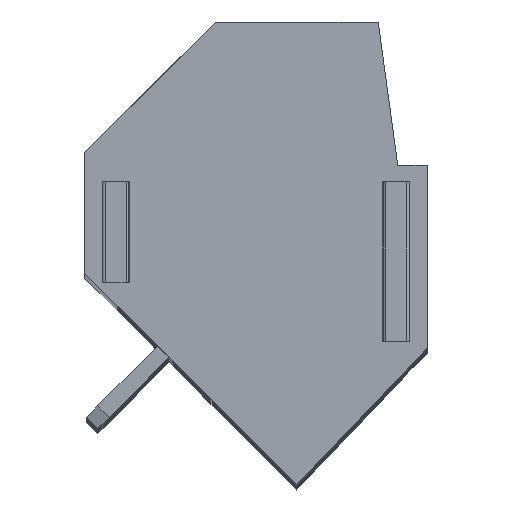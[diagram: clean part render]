
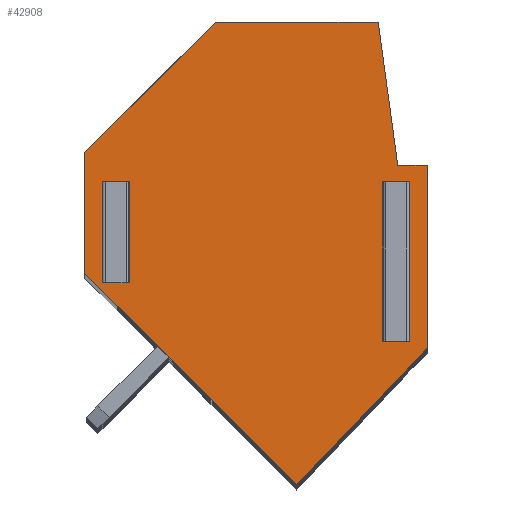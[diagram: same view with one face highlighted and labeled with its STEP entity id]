
A CAD part, top view. The second image highlights one B-rep face of the part: STEP entity #42908.
In plain terms, the highlighted planar face has unit normal (0, 0, 1).
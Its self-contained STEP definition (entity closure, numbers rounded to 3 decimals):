
#13434 = VERTEX_POINT ( 'NONE', #20497 ) ;
#13480 = VERTEX_POINT ( 'NONE', #20677 ) ;
#13495 = EDGE_CURVE ( 'NONE', #13497, #13480, #20647, .T. ) ;
#13497 = VERTEX_POINT ( 'NONE', #20641 ) ;
#13560 = VERTEX_POINT ( 'NONE', #20816 ) ;
#13570 = EDGE_CURVE ( 'NONE', #13480, #13560, #20802, .T. ) ;
#13587 = EDGE_CURVE ( 'NONE', #13589, #13434, #20909, .T. ) ;
#13589 = VERTEX_POINT ( 'NONE', #20901 ) ;
#13615 = VERTEX_POINT ( 'NONE', #20831 ) ;
#13625 = EDGE_CURVE ( 'NONE', #13560, #13615, #20972, .T. ) ;
#13674 = EDGE_CURVE ( 'NONE', #13615, #13497, #21008, .T. ) ;
#13716 = VERTEX_POINT ( 'NONE', #21083 ) ;
#13745 = EDGE_CURVE ( 'NONE', #13748, #13716, #21197, .T. ) ;
#13748 = VERTEX_POINT ( 'NONE', #21180 ) ;
#13781 = VERTEX_POINT ( 'NONE', #21247 ) ;
#13794 = EDGE_CURVE ( 'NONE', #13716, #13781, #21368, .T. ) ;
#13849 = VERTEX_POINT ( 'NONE', #21428 ) ;
#13858 = EDGE_CURVE ( 'NONE', #13781, #13849, #21422, .T. ) ;
#13920 = EDGE_CURVE ( 'NONE', #13849, #13748, #21456, .T. ) ;
#13952 = VERTEX_POINT ( 'NONE', #21536 ) ;
#13970 = EDGE_CURVE ( 'NONE', #13976, #13952, #21657, .T. ) ;
#13976 = VERTEX_POINT ( 'NONE', #21631 ) ;
#20497 = CARTESIAN_POINT ( 'NONE',  ( 0.919, -3.116, 0. ) ) ;
#20641 = CARTESIAN_POINT ( 'NONE',  ( 0.169, 1.984, 0. ) ) ;
#20643 = DIRECTION ( 'NONE',  ( 0., -1., 0. ) ) ;
#20644 = VECTOR ( 'NONE', #20643, 1000. ) ;
#20646 = CARTESIAN_POINT ( 'NONE',  ( 0.169, -0.216, 0. ) ) ;
#20647 = LINE ( 'NONE', #20646, #20644 ) ;
#20677 = CARTESIAN_POINT ( 'NONE',  ( 0.169, -2.916, 0. ) ) ;
#20797 = DIRECTION ( 'NONE',  ( -1., 0., 0. ) ) ;
#20798 = VECTOR ( 'NONE', #20797, 1000. ) ;
#20800 = CARTESIAN_POINT ( 'NONE',  ( -4.331, -2.916, 0. ) ) ;
#20802 = LINE ( 'NONE', #20800, #20798 ) ;
#20816 = CARTESIAN_POINT ( 'NONE',  ( -0.231, -2.916, 0. ) ) ;
#20831 = CARTESIAN_POINT ( 'NONE',  ( -0.231, 1.984, 0. ) ) ;
#20901 = CARTESIAN_POINT ( 'NONE',  ( -3.081, -7.316, 0. ) ) ;
#20903 = DIRECTION ( 'NONE',  ( 0.69, 0.724, 0. ) ) ;
#20904 = VECTOR ( 'NONE', #20903, 1000. ) ;
#20907 = CARTESIAN_POINT ( 'NONE',  ( -3.081, -7.316, 0. ) ) ;
#20909 = LINE ( 'NONE', #20907, #20904 ) ;
#20966 = DIRECTION ( 'NONE',  ( 0., 1., 0. ) ) ;
#20968 = VECTOR ( 'NONE', #20966, 1000. ) ;
#20970 = CARTESIAN_POINT ( 'NONE',  ( -0.231, -0.216, 0. ) ) ;
#20972 = LINE ( 'NONE', #20970, #20968 ) ;
#21003 = DIRECTION ( 'NONE',  ( 1., 0., 0. ) ) ;
#21004 = VECTOR ( 'NONE', #21003, 1000. ) ;
#21006 = CARTESIAN_POINT ( 'NONE',  ( -4.331, 1.984, 0. ) ) ;
#21008 = LINE ( 'NONE', #21006, #21004 ) ;
#21083 = CARTESIAN_POINT ( 'NONE',  ( -8.431, 1.984, 0. ) ) ;
#21180 = CARTESIAN_POINT ( 'NONE',  ( -8.831, 1.984, 0. ) ) ;
#21193 = DIRECTION ( 'NONE',  ( 1., 0., 0. ) ) ;
#21194 = VECTOR ( 'NONE', #21193, 1000. ) ;
#21196 = CARTESIAN_POINT ( 'NONE',  ( -4.331, 1.984, 0. ) ) ;
#21197 = LINE ( 'NONE', #21196, #21194 ) ;
#21247 = CARTESIAN_POINT ( 'NONE',  ( -8.431, -1.116, 0. ) ) ;
#21364 = DIRECTION ( 'NONE',  ( 0., -1., 0. ) ) ;
#21365 = VECTOR ( 'NONE', #21364, 1000. ) ;
#21366 = CARTESIAN_POINT ( 'NONE',  ( -8.431, -0.216, 0. ) ) ;
#21368 = LINE ( 'NONE', #21366, #21365 ) ;
#21418 = DIRECTION ( 'NONE',  ( -1., 0., 0. ) ) ;
#21419 = VECTOR ( 'NONE', #21418, 1000. ) ;
#21421 = CARTESIAN_POINT ( 'NONE',  ( -4.331, -1.116, 0. ) ) ;
#21422 = LINE ( 'NONE', #21421, #21419 ) ;
#21428 = CARTESIAN_POINT ( 'NONE',  ( -8.831, -1.116, 0. ) ) ;
#21452 = DIRECTION ( 'NONE',  ( 0., 1., 0. ) ) ;
#21454 = VECTOR ( 'NONE', #21452, 1000. ) ;
#21455 = CARTESIAN_POINT ( 'NONE',  ( -8.831, -0.216, 0. ) ) ;
#21456 = LINE ( 'NONE', #21455, #21454 ) ;
#21536 = CARTESIAN_POINT ( 'NONE',  ( 0.019, 2.484, 0. ) ) ;
#21631 = CARTESIAN_POINT ( 'NONE',  ( 0.919, 2.484, 0. ) ) ;
#21653 = DIRECTION ( 'NONE',  ( -1., 0., 0. ) ) ;
#21654 = VECTOR ( 'NONE', #21653, 1000. ) ;
#21656 = CARTESIAN_POINT ( 'NONE',  ( -4.331, 2.484, 0. ) ) ;
#21657 = LINE ( 'NONE', #21656, #21654 ) ;
#38325 = EDGE_CURVE ( 'NONE', #38327, #13589, #58102, .T. ) ;
#38327 = VERTEX_POINT ( 'NONE', #58098 ) ;
#39025 = EDGE_CURVE ( 'NONE', #13434, #13976, #58656, .T. ) ;
#39216 = EDGE_CURVE ( 'NONE', #39342, #38327, #58794, .T. ) ;
#39342 = VERTEX_POINT ( 'NONE', #58889 ) ;
#42206 = EDGE_CURVE ( 'NONE', #42212, #39342, #62736, .T. ) ;
#42212 = VERTEX_POINT ( 'NONE', #62731 ) ;
#42908 = ADVANCED_FACE ( 'NONE', ( #63315, #63314, #63313 ), #63312, .T. ) ;
#42914 = EDGE_LOOP ( 'NONE', ( #42973, #42974, #42980, #42983 ) ) ;
#42957 = ORIENTED_EDGE ( 'NONE', *, *, #13970, .T. ) ;
#42973 = ORIENTED_EDGE ( 'NONE', *, *, #13858, .T. ) ;
#42974 = ORIENTED_EDGE ( 'NONE', *, *, #13920, .T. ) ;
#42980 = ORIENTED_EDGE ( 'NONE', *, *, #13745, .T. ) ;
#42983 = ORIENTED_EDGE ( 'NONE', *, *, #13794, .T. ) ;
#42988 = EDGE_LOOP ( 'NONE', ( #42994, #42997, #43004, #43010 ) ) ;
#42994 = ORIENTED_EDGE ( 'NONE', *, *, #13625, .T. ) ;
#42997 = ORIENTED_EDGE ( 'NONE', *, *, #13674, .T. ) ;
#43004 = ORIENTED_EDGE ( 'NONE', *, *, #13495, .T. ) ;
#43010 = ORIENTED_EDGE ( 'NONE', *, *, #13570, .T. ) ;
#43013 = EDGE_LOOP ( 'NONE', ( #43017, #43093, #43102, #43106, #43109, #43114, #55179, #42957 ) ) ;
#43017 = ORIENTED_EDGE ( 'NONE', *, *, #43019, .F. ) ;
#43019 = EDGE_CURVE ( 'NONE', #43090, #13952, #63350, .T. ) ;
#43090 = VERTEX_POINT ( 'NONE', #63419 ) ;
#43093 = ORIENTED_EDGE ( 'NONE', *, *, #43095, .F. ) ;
#43095 = EDGE_CURVE ( 'NONE', #42212, #43090, #63414, .T. ) ;
#43102 = ORIENTED_EDGE ( 'NONE', *, *, #42206, .T. ) ;
#43106 = ORIENTED_EDGE ( 'NONE', *, *, #39216, .T. ) ;
#43109 = ORIENTED_EDGE ( 'NONE', *, *, #38325, .T. ) ;
#43114 = ORIENTED_EDGE ( 'NONE', *, *, #13587, .T. ) ;
#55179 = ORIENTED_EDGE ( 'NONE', *, *, #39025, .T. ) ;
#58098 = CARTESIAN_POINT ( 'NONE',  ( -9.581, -0.816, 0. ) ) ;
#58099 = DIRECTION ( 'NONE',  ( 0.707, -0.707, 0. ) ) ;
#58100 = VECTOR ( 'NONE', #58099, 1000. ) ;
#58101 = CARTESIAN_POINT ( 'NONE',  ( -9.581, -0.816, 0. ) ) ;
#58102 = LINE ( 'NONE', #58101, #58100 ) ;
#58653 = DIRECTION ( 'NONE',  ( 0., 1., 0. ) ) ;
#58654 = VECTOR ( 'NONE', #58653, 1000. ) ;
#58655 = CARTESIAN_POINT ( 'NONE',  ( 0.919, -7.316, 0. ) ) ;
#58656 = LINE ( 'NONE', #58655, #58654 ) ;
#58791 = DIRECTION ( 'NONE',  ( 0., -1., 0. ) ) ;
#58792 = VECTOR ( 'NONE', #58791, 1000. ) ;
#58793 = CARTESIAN_POINT ( 'NONE',  ( -9.581, -0.216, 0. ) ) ;
#58794 = LINE ( 'NONE', #58793, #58792 ) ;
#58889 = CARTESIAN_POINT ( 'NONE',  ( -9.581, 2.884, 0. ) ) ;
#62731 = CARTESIAN_POINT ( 'NONE',  ( -5.581, 6.884, 0. ) ) ;
#62733 = DIRECTION ( 'NONE',  ( -0.707, -0.707, 0. ) ) ;
#62734 = VECTOR ( 'NONE', #62733, 1000. ) ;
#62735 = CARTESIAN_POINT ( 'NONE',  ( -5.581, 6.884, 0. ) ) ;
#62736 = LINE ( 'NONE', #62735, #62734 ) ;
#63308 = DIRECTION ( 'NONE',  ( 1., 0., 0. ) ) ;
#63309 = DIRECTION ( 'NONE',  ( 0., 0., 1. ) ) ;
#63310 = CARTESIAN_POINT ( 'NONE',  ( -9.581, -7.316, 0. ) ) ;
#63311 = AXIS2_PLACEMENT_3D ( 'NONE', #63310, #63309, #63308 ) ;
#63312 = PLANE ( 'NONE',  #63311 ) ;
#63313 = FACE_OUTER_BOUND ( 'NONE', #43013, .T. ) ;
#63314 = FACE_BOUND ( 'NONE', #42988, .T. ) ;
#63315 = FACE_BOUND ( 'NONE', #42914, .T. ) ;
#63347 = DIRECTION ( 'NONE',  ( 0.135, -0.991, 0. ) ) ;
#63348 = VECTOR ( 'NONE', #63347, 1000. ) ;
#63349 = CARTESIAN_POINT ( 'NONE',  ( -0.281, 4.684, 0. ) ) ;
#63350 = LINE ( 'NONE', #63349, #63348 ) ;
#63413 = CARTESIAN_POINT ( 'NONE',  ( -5.581, 6.884, 0. ) ) ;
#63414 = LINE ( 'NONE', #63413, #63476 ) ;
#63419 = CARTESIAN_POINT ( 'NONE',  ( -0.581, 6.884, 0. ) ) ;
#63475 = DIRECTION ( 'NONE',  ( 1., 0., 0. ) ) ;
#63476 = VECTOR ( 'NONE', #63475, 1000. ) ;
